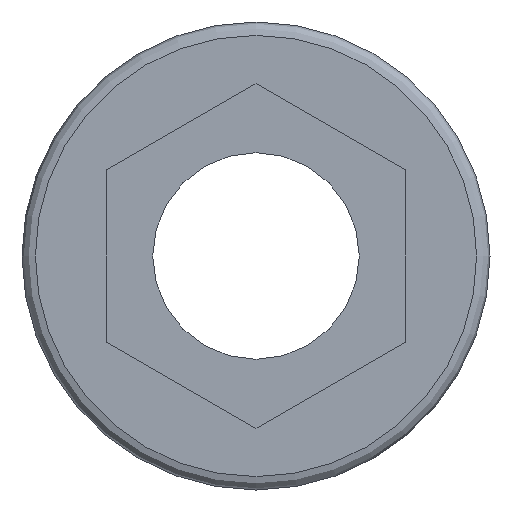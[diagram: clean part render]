
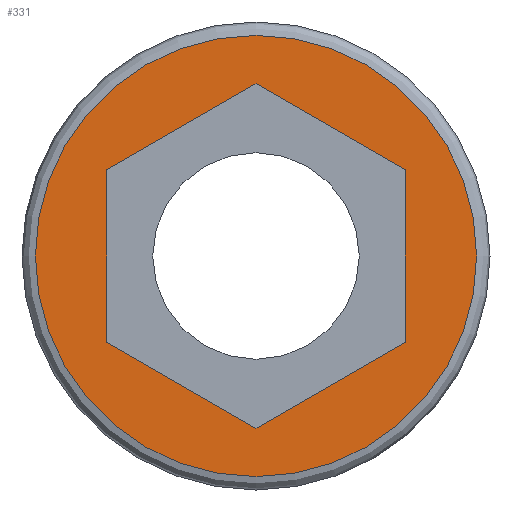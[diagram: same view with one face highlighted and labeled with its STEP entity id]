
A CAD part, front view. The second image highlights one B-rep face of the part: STEP entity #331.
In plain terms, the highlighted planar face has unit normal (0, -1, 0).
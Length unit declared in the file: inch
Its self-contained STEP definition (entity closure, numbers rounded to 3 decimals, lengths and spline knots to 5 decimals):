
#17=FACE_BOUND('',#108,.T.);
#22=PLANE('',#378);
#34=LINE('',#550,#57);
#35=LINE('',#552,#58);
#36=LINE('',#554,#59);
#37=LINE('',#556,#60);
#38=LINE('',#558,#61);
#39=LINE('',#559,#62);
#57=VECTOR('',#446,0.3937);
#58=VECTOR('',#447,0.3937);
#59=VECTOR('',#448,0.3937);
#60=VECTOR('',#449,0.3937);
#61=VECTOR('',#450,0.3937);
#62=VECTOR('',#451,0.3937);
#87=FACE_OUTER_BOUND('',#107,.T.);
#107=EDGE_LOOP('',(#253,#254));
#108=EDGE_LOOP('',(#255,#256,#257,#258,#259,#260));
#132=CIRCLE('',#370,0.1153);
#136=CIRCLE('',#374,0.1153);
#155=VERTEX_POINT('',#532);
#156=VERTEX_POINT('',#533);
#161=VERTEX_POINT('',#548);
#162=VERTEX_POINT('',#549);
#163=VERTEX_POINT('',#551);
#164=VERTEX_POINT('',#553);
#165=VERTEX_POINT('',#555);
#166=VERTEX_POINT('',#557);
#190=EDGE_CURVE('',#155,#156,#132,.T.);
#194=EDGE_CURVE('',#156,#155,#136,.T.);
#198=EDGE_CURVE('',#161,#162,#34,.T.);
#199=EDGE_CURVE('',#162,#163,#35,.T.);
#200=EDGE_CURVE('',#163,#164,#36,.T.);
#201=EDGE_CURVE('',#164,#165,#37,.T.);
#202=EDGE_CURVE('',#165,#166,#38,.T.);
#203=EDGE_CURVE('',#166,#161,#39,.T.);
#253=ORIENTED_EDGE('',*,*,#190,.F.);
#254=ORIENTED_EDGE('',*,*,#194,.F.);
#255=ORIENTED_EDGE('',*,*,#198,.T.);
#256=ORIENTED_EDGE('',*,*,#199,.T.);
#257=ORIENTED_EDGE('',*,*,#200,.T.);
#258=ORIENTED_EDGE('',*,*,#201,.T.);
#259=ORIENTED_EDGE('',*,*,#202,.T.);
#260=ORIENTED_EDGE('',*,*,#203,.T.);
#331=ADVANCED_FACE('',(#87,#17),#22,.T.);
#370=AXIS2_PLACEMENT_3D('',#534,#427,#428);
#374=AXIS2_PLACEMENT_3D('',#540,#435,#436);
#378=AXIS2_PLACEMENT_3D('',#547,#444,#445);
#427=DIRECTION('center_axis',(0.,1.,0.));
#428=DIRECTION('ref_axis',(0.,0.,1.));
#435=DIRECTION('center_axis',(0.,1.,0.));
#436=DIRECTION('ref_axis',(0.,0.,1.));
#444=DIRECTION('center_axis',(0.,-1.,0.));
#445=DIRECTION('ref_axis',(0.,0.,-1.));
#446=DIRECTION('',(0.866,0.,-0.5));
#447=DIRECTION('',(0.,0.,-1.));
#448=DIRECTION('',(-0.866,0.,-0.5));
#449=DIRECTION('',(-0.866,0.,0.5));
#450=DIRECTION('',(0.,0.,1.));
#451=DIRECTION('',(0.866,0.,0.5));
#532=CARTESIAN_POINT('',(0.,0.,-0.1153));
#533=CARTESIAN_POINT('',(0.,0.,0.1153));
#534=CARTESIAN_POINT('Origin',(0.,0.,0.));
#540=CARTESIAN_POINT('Origin',(0.,0.,0.));
#547=CARTESIAN_POINT('Origin',(0.,0.,-0.054));
#548=CARTESIAN_POINT('',(0.,0.,0.09007));
#549=CARTESIAN_POINT('',(0.078,0.,0.04503));
#550=CARTESIAN_POINT('',(0.03119,0.,0.07206));
#551=CARTESIAN_POINT('',(0.078,0.,-0.04503));
#552=CARTESIAN_POINT('',(0.078,0.,-0.00448));
#553=CARTESIAN_POINT('',(0.,0.,-0.09007));
#554=CARTESIAN_POINT('',(0.04681,0.,-0.06304));
#555=CARTESIAN_POINT('',(-0.078,0.,-0.04503));
#556=CARTESIAN_POINT('',(-0.00781,0.,-0.08556));
#557=CARTESIAN_POINT('',(-0.078,0.,0.04503));
#558=CARTESIAN_POINT('',(-0.078,0.,-0.04952));
#559=CARTESIAN_POINT('',(-0.07019,0.,0.04954));
